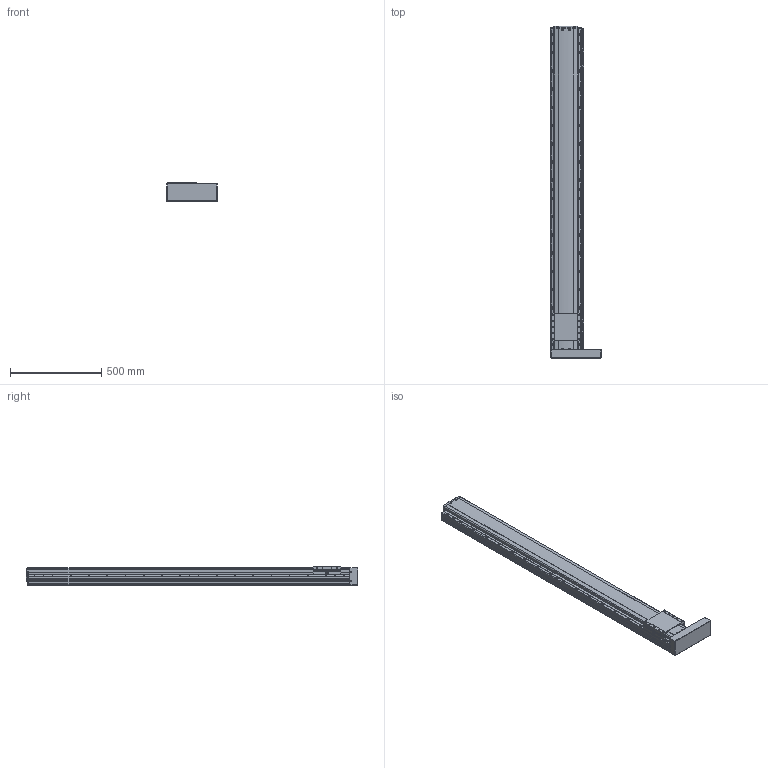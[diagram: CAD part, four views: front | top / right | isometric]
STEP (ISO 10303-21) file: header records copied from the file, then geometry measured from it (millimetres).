
FILE_DESCRIPTION(('STEP AP214'),'1');
FILE_NAME('Z:/Web/3D/PSA165/STP/PSA165-1500 (3D)/PSA165ㅁㅁ-1500PR+3SR.stp','2014-06-24T10:56:07',(' '),(' '),'Spatial InterOp 3D',' ',' ');
FILE_SCHEMA(('automotive_design'));
Length unit declared in the file: millimetre
Products named in the file (41): 스크루 : Round - M4.0 x 12.0; RRCV-PA160; BASE; 스크루 : Round - M4.0 x 10.0; RN15; Screw 20; SLIDE; FRCV; MTPL; 스크루 : Round - M3.0 x 6.0; M3.0 x 6.0; SRL-16x17-360L; SGD-SAN150; EE-SX674; SBK-SX674-352; BHCS M4.0 x 10.0
Bounding box: 281.93 x 1820.8 x 104 mm (x, y, z)
Volume: 25627536.1 mm3; surface area: 1701672.8 mm2
Topology: 41 solids, 41 shells, 2712 faces, 7289 edges, 4665 vertices
Faces by surface type: plane 1483, cylinder 875, cone 249, sphere 64, bspline 25, torus 16
Entity records: 110293 total; most frequent: CARTESIAN_POINT 19293, DIRECTION 14507, ORIENTED_EDGE 14222, EDGE_CURVE 7111, AXIS2_PLACEMENT_3D 4933, VERTEX_POINT 4665, LINE 4641, VECTOR 4641
